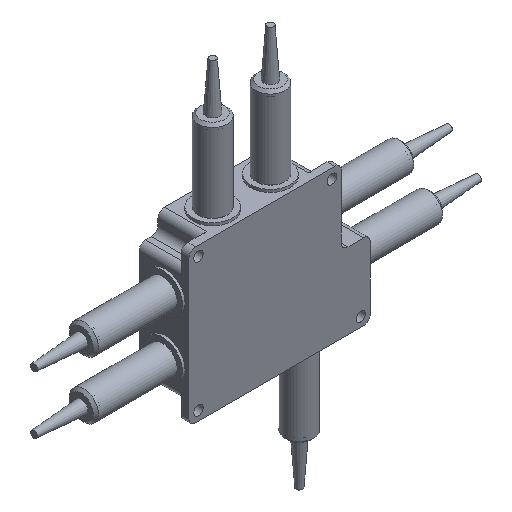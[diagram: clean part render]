
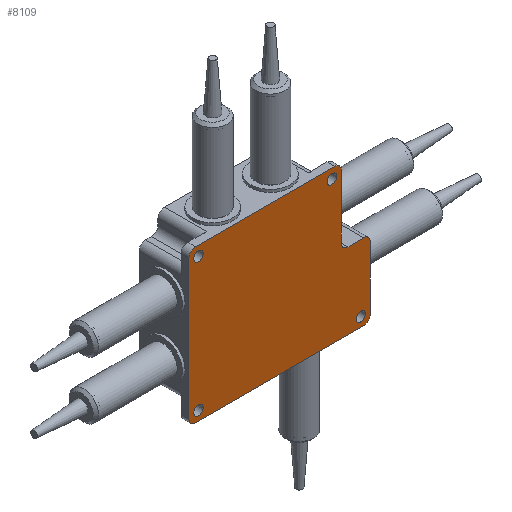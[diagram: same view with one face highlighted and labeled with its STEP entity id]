
A CAD part, isometric view. The second image highlights one B-rep face of the part: STEP entity #8109.
In plain terms, the highlighted planar face has unit normal (0, -1, 0) as drawn and (0, 0, -1) by its records, which use the part's own axes.
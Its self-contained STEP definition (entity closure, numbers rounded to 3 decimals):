
#340 = VERTEX_POINT ( 'NONE', #2556 ) ;
#644 = DIRECTION ( 'NONE',  ( 1., 0., 0. ) ) ;
#651 = ORIENTED_EDGE ( 'NONE', *, *, #9119, .T. ) ;
#674 = ORIENTED_EDGE ( 'NONE', *, *, #2361, .T. ) ;
#706 = DIRECTION ( 'NONE',  ( 0., 0., -1. ) ) ;
#876 = CARTESIAN_POINT ( 'NONE',  ( 23.7, 12.7, -3.5 ) ) ;
#919 = DIRECTION ( 'NONE',  ( 1., 0., 0. ) ) ;
#1247 = VERTEX_POINT ( 'NONE', #5183 ) ;
#1359 = AXIS2_PLACEMENT_3D ( 'NONE', #4406, #13210, #5677 ) ;
#1399 = VERTEX_POINT ( 'NONE', #2714 ) ;
#1523 = DIRECTION ( 'NONE',  ( 1., 0., 0. ) ) ;
#1531 = ORIENTED_EDGE ( 'NONE', *, *, #8773, .T. ) ;
#1657 = CARTESIAN_POINT ( 'NONE',  ( 18.75, -13.25, -3.5 ) ) ;
#1790 = DIRECTION ( 'NONE',  ( -1., 0., 0. ) ) ;
#1855 = VERTEX_POINT ( 'NONE', #11729 ) ;
#1922 = DIRECTION ( 'NONE',  ( -1., 0., 0. ) ) ;
#1975 = DIRECTION ( 'NONE',  ( 0., 0., -1. ) ) ;
#1982 = LINE ( 'NONE', #15327, #14970 ) ;
#2025 = AXIS2_PLACEMENT_3D ( 'NONE', #876, #9700, #2131 ) ;
#2041 = EDGE_CURVE ( 'NONE', #13378, #13378, #8439, .T. ) ;
#2055 = ORIENTED_EDGE ( 'NONE', *, *, #6869, .T. ) ;
#2090 = CARTESIAN_POINT ( 'NONE',  ( 18.75, -14.5, -3.5 ) ) ;
#2131 = DIRECTION ( 'NONE',  ( 1., 0., 0. ) ) ;
#2241 = FACE_OUTER_BOUND ( 'NONE', #8110, .T. ) ;
#2276 = CARTESIAN_POINT ( 'NONE',  ( 24.6, 12.7, -3.5 ) ) ;
#2321 = VERTEX_POINT ( 'NONE', #2561 ) ;
#2361 = EDGE_CURVE ( 'NONE', #14299, #5325, #1982, .T. ) ;
#2556 = CARTESIAN_POINT ( 'NONE',  ( 25.5, 1.25, -3.5 ) ) ;
#2561 = CARTESIAN_POINT ( 'NONE',  ( 24.25, 0., -3.5 ) ) ;
#2713 = VECTOR ( 'NONE', #15391, 1000. ) ;
#2714 = CARTESIAN_POINT ( 'NONE',  ( -9., -13.25, -3.5 ) ) ;
#2909 = DIRECTION ( 'NONE',  ( -1., 0., 0. ) ) ;
#2931 = CIRCLE ( 'NONE', #7793, 1.25 ) ;
#3006 = ORIENTED_EDGE ( 'NONE', *, *, #12901, .T. ) ;
#3154 = ORIENTED_EDGE ( 'NONE', *, *, #15424, .T. ) ;
#3347 = CIRCLE ( 'NONE', #12497, 0.9 ) ;
#3408 = AXIS2_PLACEMENT_3D ( 'NONE', #5005, #13799, #6266 ) ;
#3630 = EDGE_CURVE ( 'NONE', #15839, #1399, #14366, .T. ) ;
#4206 = CIRCLE ( 'NONE', #3408, 1.25 ) ;
#4222 = CARTESIAN_POINT ( 'NONE',  ( 24.25, 1.25, -3.5 ) ) ;
#4406 = CARTESIAN_POINT ( 'NONE',  ( -7.2, 12.7, -3.5 ) ) ;
#4442 = DIRECTION ( 'NONE',  ( 0., 0., -1. ) ) ;
#4636 = ORIENTED_EDGE ( 'NONE', *, *, #6089, .T. ) ;
#4730 = CIRCLE ( 'NONE', #1359, 0.9 ) ;
#4809 = EDGE_CURVE ( 'NONE', #9668, #9668, #4730, .T. ) ;
#4902 = LINE ( 'NONE', #11911, #8639 ) ;
#5005 = CARTESIAN_POINT ( 'NONE',  ( 21.25, -1.25, -3.5 ) ) ;
#5017 = AXIS2_PLACEMENT_3D ( 'NONE', #7192, #15999, #8476 ) ;
#5183 = CARTESIAN_POINT ( 'NONE',  ( 20., -13.25, -3.5 ) ) ;
#5295 = VECTOR ( 'NONE', #1790, 1000. ) ;
#5306 = EDGE_LOOP ( 'NONE', ( #12031 ) ) ;
#5325 = VERTEX_POINT ( 'NONE', #7395 ) ;
#5499 = DIRECTION ( 'NONE',  ( -1., 0., 0. ) ) ;
#5505 = ORIENTED_EDGE ( 'NONE', *, *, #6713, .T. ) ;
#5516 = EDGE_CURVE ( 'NONE', #5325, #15329, #2931, .T. ) ;
#5594 = FACE_BOUND ( 'NONE', #15899, .T. ) ;
#5617 = CARTESIAN_POINT ( 'NONE',  ( 20., -1.25, -3.5 ) ) ;
#5677 = DIRECTION ( 'NONE',  ( 1., 0., 0. ) ) ;
#5900 = CIRCLE ( 'NONE', #5017, 1.25 ) ;
#5998 = FACE_BOUND ( 'NONE', #11410, .T. ) ;
#6089 = EDGE_CURVE ( 'NONE', #15329, #340, #4902, .T. ) ;
#6096 = CARTESIAN_POINT ( 'NONE',  ( -6.3, 12.7, -3.5 ) ) ;
#6266 = DIRECTION ( 'NONE',  ( -1., 0., 0. ) ) ;
#6466 = VERTEX_POINT ( 'NONE', #2090 ) ;
#6468 = LINE ( 'NONE', #14096, #2713 ) ;
#6713 = EDGE_CURVE ( 'NONE', #1399, #1855, #6468, .T. ) ;
#6829 = VERTEX_POINT ( 'NONE', #8673 ) ;
#6849 = ORIENTED_EDGE ( 'NONE', *, *, #8098, .T. ) ;
#6869 = EDGE_CURVE ( 'NONE', #2321, #11797, #8624, .T. ) ;
#6906 = DIRECTION ( 'NONE',  ( 0., -1., 0. ) ) ;
#6982 = PLANE ( 'NONE',  #11006 ) ;
#7002 = EDGE_CURVE ( 'NONE', #7990, #1247, #14509, .T. ) ;
#7016 = ORIENTED_EDGE ( 'NONE', *, *, #3630, .T. ) ;
#7192 = CARTESIAN_POINT ( 'NONE',  ( -7.75, 13.25, -3.5 ) ) ;
#7395 = CARTESIAN_POINT ( 'NONE',  ( 24.25, 14.5, -3.5 ) ) ;
#7421 = VECTOR ( 'NONE', #8335, 1000. ) ;
#7446 = CARTESIAN_POINT ( 'NONE',  ( 19.1, -12.7, -3.5 ) ) ;
#7793 = AXIS2_PLACEMENT_3D ( 'NONE', #11984, #4442, #13247 ) ;
#7981 = AXIS2_PLACEMENT_3D ( 'NONE', #15995, #8468, #919 ) ;
#7990 = VERTEX_POINT ( 'NONE', #5617 ) ;
#8092 = AXIS2_PLACEMENT_3D ( 'NONE', #1657, #10477, #2909 ) ;
#8098 = EDGE_CURVE ( 'NONE', #6466, #15839, #9351, .T. ) ;
#8110 = EDGE_LOOP ( 'NONE', ( #674, #12347, #4636, #651, #2055, #1531, #12568, #3154, #6849, #7016, #5505, #10859 ) ) ;
#8109 = ADVANCED_FACE ( 'NONE', ( #5998, #8959, #15623, #5594, #2241 ), #6982, .T. ) ;
#8181 = DIRECTION ( 'NONE',  ( 0., 0., 1. ) ) ;
#8290 = CIRCLE ( 'NONE', #8092, 1.25 ) ;
#8335 = DIRECTION ( 'NONE',  ( 0., -1., 0. ) ) ;
#8439 = CIRCLE ( 'NONE', #2025, 0.9 ) ;
#8468 = DIRECTION ( 'NONE',  ( 0., 0., 1. ) ) ;
#8476 = DIRECTION ( 'NONE',  ( -1., 0., 0. ) ) ;
#8611 = CIRCLE ( 'NONE', #7981, 0.9 ) ;
#8624 = LINE ( 'NONE', #10607, #5295 ) ;
#8639 = VECTOR ( 'NONE', #6906, 1000. ) ;
#8673 = CARTESIAN_POINT ( 'NONE',  ( -6.3, -12.7, -3.5 ) ) ;
#8773 = EDGE_CURVE ( 'NONE', #11797, #7990, #4206, .T. ) ;
#8797 = ORIENTED_EDGE ( 'NONE', *, *, #4809, .T. ) ;
#8939 = CARTESIAN_POINT ( 'NONE',  ( -7.75, 14.5, -3.5 ) ) ;
#8959 = FACE_BOUND ( 'NONE', #15700, .T. ) ;
#9119 = EDGE_CURVE ( 'NONE', #340, #2321, #14055, .T. ) ;
#9351 = LINE ( 'NONE', #13252, #12282 ) ;
#9535 = CARTESIAN_POINT ( 'NONE',  ( -7.75, -13.25, -3.5 ) ) ;
#9541 = DIRECTION ( 'NONE',  ( -1., 0., 0. ) ) ;
#9668 = VERTEX_POINT ( 'NONE', #6096 ) ;
#9700 = DIRECTION ( 'NONE',  ( 0., 0., 1. ) ) ;
#10318 = CARTESIAN_POINT ( 'NONE',  ( 25.5, 13.25, -3.5 ) ) ;
#10477 = DIRECTION ( 'NONE',  ( 0., 0., -1. ) ) ;
#10607 = CARTESIAN_POINT ( 'NONE',  ( 25.5, 0., -3.5 ) ) ;
#10621 = EDGE_CURVE ( 'NONE', #1855, #14299, #5900, .T. ) ;
#10788 = DIRECTION ( 'NONE',  ( -1., 0., 0. ) ) ;
#10859 = ORIENTED_EDGE ( 'NONE', *, *, #10621, .T. ) ;
#11006 = AXIS2_PLACEMENT_3D ( 'NONE', #15790, #706, #9541 ) ;
#11410 = EDGE_LOOP ( 'NONE', ( #3006 ) ) ;
#11729 = CARTESIAN_POINT ( 'NONE',  ( -9., 13.25, -3.5 ) ) ;
#11797 = VERTEX_POINT ( 'NONE', #16139 ) ;
#11911 = CARTESIAN_POINT ( 'NONE',  ( 25.5, 14.5, -3.5 ) ) ;
#11984 = CARTESIAN_POINT ( 'NONE',  ( 24.25, 13.25, -3.5 ) ) ;
#12031 = ORIENTED_EDGE ( 'NONE', *, *, #2041, .T. ) ;
#12282 = VECTOR ( 'NONE', #1922, 1000. ) ;
#12314 = VERTEX_POINT ( 'NONE', #7446 ) ;
#12347 = ORIENTED_EDGE ( 'NONE', *, *, #5516, .T. ) ;
#12497 = AXIS2_PLACEMENT_3D ( 'NONE', #15720, #8181, #644 ) ;
#12568 = ORIENTED_EDGE ( 'NONE', *, *, #7002, .T. ) ;
#12901 = EDGE_CURVE ( 'NONE', #6829, #6829, #8611, .T. ) ;
#13024 = DIRECTION ( 'NONE',  ( 0., 0., -1. ) ) ;
#13210 = DIRECTION ( 'NONE',  ( 0., 0., 1. ) ) ;
#13247 = DIRECTION ( 'NONE',  ( -1., 0., 0. ) ) ;
#13252 = CARTESIAN_POINT ( 'NONE',  ( 20., -14.5, -3.5 ) ) ;
#13378 = VERTEX_POINT ( 'NONE', #2276 ) ;
#13511 = CARTESIAN_POINT ( 'NONE',  ( -7.75, -14.5, -3.5 ) ) ;
#13799 = DIRECTION ( 'NONE',  ( 0., 0., 1. ) ) ;
#14055 = CIRCLE ( 'NONE', #16068, 1.25 ) ;
#14096 = CARTESIAN_POINT ( 'NONE',  ( -9., -14.5, -3.5 ) ) ;
#14111 = AXIS2_PLACEMENT_3D ( 'NONE', #9535, #1975, #10788 ) ;
#14299 = VERTEX_POINT ( 'NONE', #8939 ) ;
#14366 = CIRCLE ( 'NONE', #14111, 1.25 ) ;
#14509 = LINE ( 'NONE', #15866, #7421 ) ;
#14970 = VECTOR ( 'NONE', #1523, 1000. ) ;
#15327 = CARTESIAN_POINT ( 'NONE',  ( -9., 14.5, -3.5 ) ) ;
#15329 = VERTEX_POINT ( 'NONE', #10318 ) ;
#15391 = DIRECTION ( 'NONE',  ( 0., 1., 0. ) ) ;
#15424 = EDGE_CURVE ( 'NONE', #1247, #6466, #8290, .T. ) ;
#15623 = FACE_BOUND ( 'NONE', #5306, .T. ) ;
#15636 = EDGE_CURVE ( 'NONE', #12314, #12314, #3347, .T. ) ;
#15700 = EDGE_LOOP ( 'NONE', ( #16321 ) ) ;
#15720 = CARTESIAN_POINT ( 'NONE',  ( 18.2, -12.7, -3.5 ) ) ;
#15790 = CARTESIAN_POINT ( 'NONE',  ( 0., 0., -3.5 ) ) ;
#15839 = VERTEX_POINT ( 'NONE', #13511 ) ;
#15866 = CARTESIAN_POINT ( 'NONE',  ( 20., 0., -3.5 ) ) ;
#15899 = EDGE_LOOP ( 'NONE', ( #8797 ) ) ;
#15995 = CARTESIAN_POINT ( 'NONE',  ( -7.2, -12.7, -3.5 ) ) ;
#15999 = DIRECTION ( 'NONE',  ( 0., 0., -1. ) ) ;
#16068 = AXIS2_PLACEMENT_3D ( 'NONE', #4222, #13024, #5499 ) ;
#16139 = CARTESIAN_POINT ( 'NONE',  ( 21.25, 0., -3.5 ) ) ;
#16321 = ORIENTED_EDGE ( 'NONE', *, *, #15636, .T. ) ;
